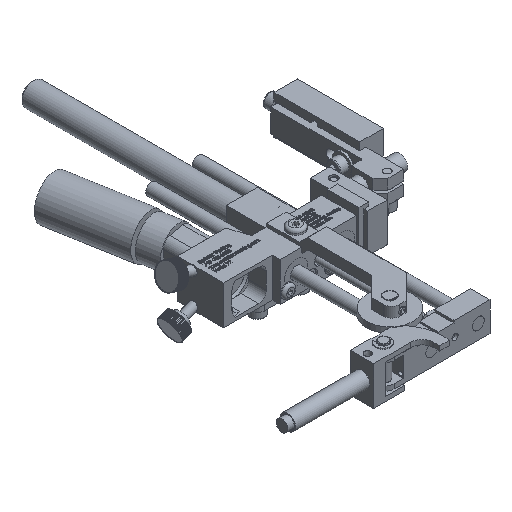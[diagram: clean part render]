
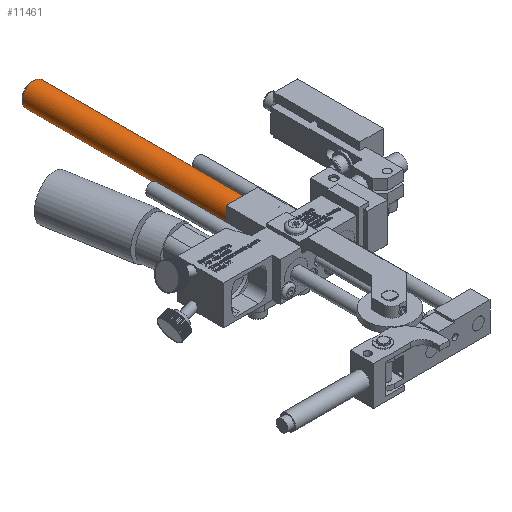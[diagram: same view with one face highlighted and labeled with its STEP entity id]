
A CAD part, isometric view. The second image highlights one B-rep face of the part: STEP entity #11461.
In plain terms, the highlighted cylindrical face has radius 4.763 mm (diameter 9.525 mm), a full revolution.
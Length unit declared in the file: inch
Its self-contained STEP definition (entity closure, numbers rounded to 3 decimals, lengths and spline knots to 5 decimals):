
#11430=CARTESIAN_POINT('',(0.69592,4.68233,-0.5005));
#11431=VERTEX_POINT('',#11430);
#11432=CARTESIAN_POINT('',(0.69592,4.68233,-0.313));
#11433=DIRECTION('',(0.0,1.0,0.0));
#11434=DIRECTION('',(0.0,0.0,1.0));
#11435=AXIS2_PLACEMENT_3D('',#11432,#11433,#11434);
#11436=CIRCLE('',#11435,0.1875);
#11437=EDGE_CURVE('',#11431,#11431,#11436,.T.);
#11442=CARTESIAN_POINT('',(0.69592,1.33733,-0.313));
#11443=DIRECTION('',(0.,1.0,0.));
#11444=DIRECTION('',(0.0,0.0,1.0));
#11445=AXIS2_PLACEMENT_3D('',#11442,#11443,#11444);
#11446=CYLINDRICAL_SURFACE('',#11445,0.1875);
#11447=CARTESIAN_POINT('',(0.69592,1.33733,-0.5005));
#11448=VERTEX_POINT('',#11447);
#11449=CARTESIAN_POINT('',(0.69592,1.33733,-0.313));
#11450=DIRECTION('',(0.0,-1.0,0.0));
#11451=DIRECTION('',(0.0,0.0,1.0));
#11452=AXIS2_PLACEMENT_3D('',#11449,#11450,#11451);
#11453=CIRCLE('',#11452,0.1875);
#11454=EDGE_CURVE('',#11448,#11448,#11453,.T.);
#11455=ORIENTED_EDGE('',*,*,#11454,.F.);
#11456=EDGE_LOOP('',(#11455));
#11457=FACE_OUTER_BOUND('',#11456,.T.);
#11458=ORIENTED_EDGE('',*,*,#11437,.F.);
#11459=EDGE_LOOP('',(#11458));
#11460=FACE_BOUND('',#11459,.T.);
#11461=ADVANCED_FACE('',(#11457,#11460),#11446,.T.);
